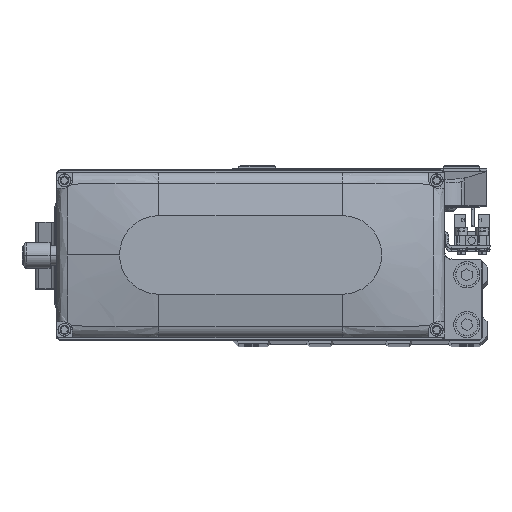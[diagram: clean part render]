
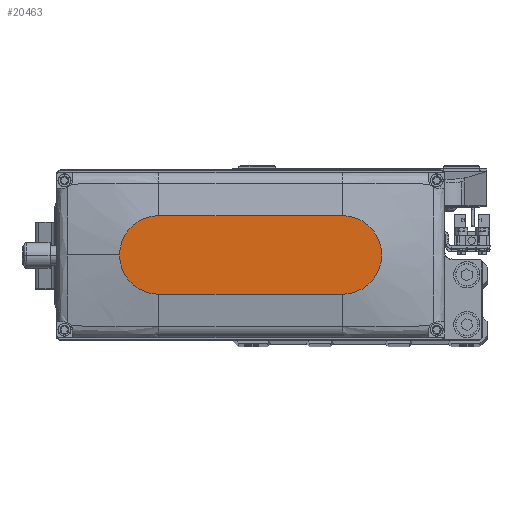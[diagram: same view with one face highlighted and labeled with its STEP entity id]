
A CAD part, top view. The second image highlights one B-rep face of the part: STEP entity #20463.
In plain terms, the highlighted planar face has unit normal (0, 0, 1).
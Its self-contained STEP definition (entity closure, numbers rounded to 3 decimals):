
#1296 = CARTESIAN_POINT ( 'NONE',  ( 0., 0., 35. ) ) ;
#1425 = CARTESIAN_POINT ( 'NONE',  ( 35., 0., 35. ) ) ;
#2366 = VECTOR ( 'NONE', #13417, 1000. ) ;
#3176 = AXIS2_PLACEMENT_3D ( 'NONE', #42658, #10215, #24644 ) ;
#3973 = CARTESIAN_POINT ( 'NONE',  ( 35., -15., 35. ) ) ;
#4351 = EDGE_CURVE ( 'NONE', #21591, #23453, #31342, .T. ) ;
#5193 = ORIENTED_EDGE ( 'NONE', *, *, #41918, .T. ) ;
#7048 = ORIENTED_EDGE ( 'NONE', *, *, #28066, .T. ) ;
#10215 = DIRECTION ( 'NONE',  ( 0., 0., 1. ) ) ;
#10283 = CARTESIAN_POINT ( 'NONE',  ( 35., 15., 35. ) ) ;
#10950 = AXIS2_PLACEMENT_3D ( 'NONE', #1425, #15869, #30303 ) ;
#12149 = CIRCLE ( 'NONE', #38611, 15. ) ;
#12670 = CARTESIAN_POINT ( 'NONE',  ( 50., 0., 35. ) ) ;
#12721 = DIRECTION ( 'NONE',  ( -1., 0., 0. ) ) ;
#13270 = ORIENTED_EDGE ( 'NONE', *, *, #4351, .T. ) ;
#13417 = DIRECTION ( 'NONE',  ( 1., 0., 0. ) ) ;
#13886 = CARTESIAN_POINT ( 'NONE',  ( -35., 0., 35. ) ) ;
#15751 = DIRECTION ( 'NONE',  ( 0., 0., 1. ) ) ;
#15869 = DIRECTION ( 'NONE',  ( 0., 0., 1. ) ) ;
#19299 = FACE_OUTER_BOUND ( 'NONE', #40131, .T. ) ;
#20463 = ADVANCED_FACE ( 'NONE', ( #19299 ), #33751, .T. ) ;
#21591 = VERTEX_POINT ( 'NONE', #3973 ) ;
#23030 = EDGE_CURVE ( 'NONE', #42744, #42181, #30713, .T. ) ;
#23453 = VERTEX_POINT ( 'NONE', #12670 ) ;
#23588 = CARTESIAN_POINT ( 'NONE',  ( -35., 15., 35. ) ) ;
#23595 = CIRCLE ( 'NONE', #3176, 15. ) ;
#24644 = DIRECTION ( 'NONE',  ( 1., 0., 0. ) ) ;
#25480 = AXIS2_PLACEMENT_3D ( 'NONE', #1296, #15751, #30176 ) ;
#28066 = EDGE_CURVE ( 'NONE', #42181, #32378, #12149, .T. ) ;
#28331 = DIRECTION ( 'NONE',  ( 0., 0., 1. ) ) ;
#30176 = DIRECTION ( 'NONE',  ( 1., 0., 0. ) ) ;
#30303 = DIRECTION ( 'NONE',  ( 1., 0., 0. ) ) ;
#30713 = LINE ( 'NONE', #45193, #33122 ) ;
#31342 = CIRCLE ( 'NONE', #10950, 15. ) ;
#31399 = LINE ( 'NONE', #45880, #2366 ) ;
#32378 = VERTEX_POINT ( 'NONE', #36637 ) ;
#33122 = VECTOR ( 'NONE', #12721, 1000. ) ;
#33751 = PLANE ( 'NONE',  #25480 ) ;
#36637 = CARTESIAN_POINT ( 'NONE',  ( -35., -15., 35. ) ) ;
#36694 = EDGE_CURVE ( 'NONE', #32378, #21591, #31399, .T. ) ;
#37630 = ORIENTED_EDGE ( 'NONE', *, *, #23030, .T. ) ;
#38611 = AXIS2_PLACEMENT_3D ( 'NONE', #13886, #28331, #42800 ) ;
#40131 = EDGE_LOOP ( 'NONE', ( #37630, #7048, #45860, #13270, #5193 ) ) ;
#41918 = EDGE_CURVE ( 'NONE', #23453, #42744, #23595, .T. ) ;
#42181 = VERTEX_POINT ( 'NONE', #23588 ) ;
#42658 = CARTESIAN_POINT ( 'NONE',  ( 35., 0., 35. ) ) ;
#42744 = VERTEX_POINT ( 'NONE', #10283 ) ;
#42800 = DIRECTION ( 'NONE',  ( 1., 0., 0. ) ) ;
#45193 = CARTESIAN_POINT ( 'NONE',  ( -35., 15., 35. ) ) ;
#45860 = ORIENTED_EDGE ( 'NONE', *, *, #36694, .T. ) ;
#45880 = CARTESIAN_POINT ( 'NONE',  ( -35., -15., 35. ) ) ;
